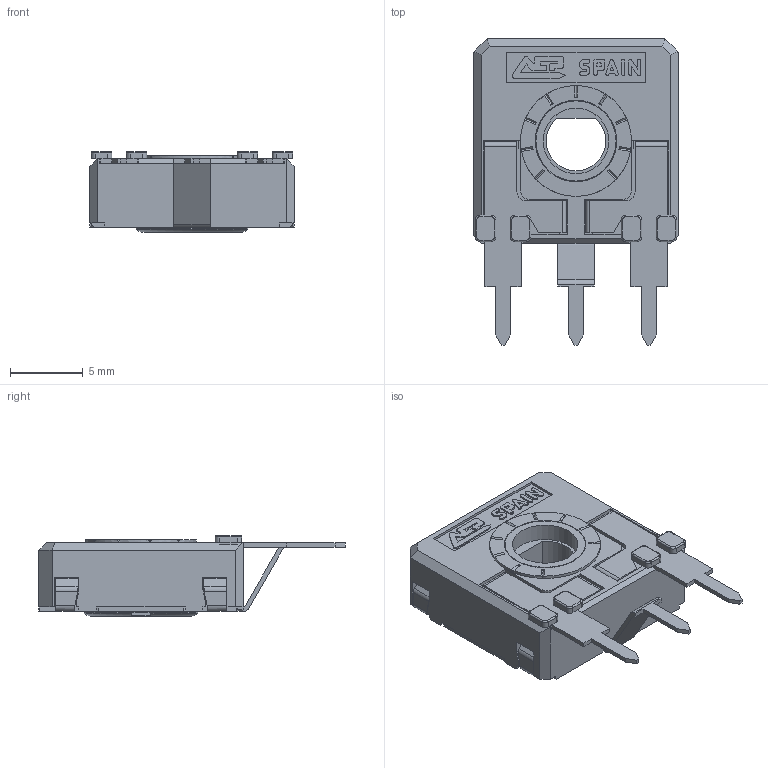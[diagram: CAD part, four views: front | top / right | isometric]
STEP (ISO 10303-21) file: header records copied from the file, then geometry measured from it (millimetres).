
FILE_DESCRIPTION(/* description */ (''),/* implementation_level */ '2;1');
FILE_NAME(/* name */ 'C:\Users\CEM\Desktop\ENVIAR\TRANSICION 3D CATALOGOS\RS14DH0.stp',/* time_stamp */ '2025-12-10T10:20:09+01:00',/* author */ ('CEM'),/* organization */ (''),/* preprocessor_version */ 'ST-DEVELOPER v16.13',/* originating_system */ 'Autodesk Inventor 2018',/* authorisation */ '');
FILE_SCHEMA (('AUTOMOTIVE_DESIGN { 1 0 10303 214 3 1 1 }'));
Length unit declared in the file: millimetre
Products named in the file (1): CARCASA CA14 PGA
Bounding box: 14 x 21 x 5.55 mm (x, y, z)
Volume: 520 mm3; surface area: 1446.8 mm2
Topology: 1 solids, 1 shells, 658 faces, 1848 edges, 1187 vertices
Faces by surface type: plane 487, cylinder 134, torus 23, bspline 8, cone 6
Full cylindrical faces by diameter (mm): 4.5 x1, 5.5 x1, 5.6 x1, 5.752 x1, 6.8 x1, 7.6 x1
Entity records: 21258 total; most frequent: CARTESIAN_POINT 3886, ORIENTED_EDGE 3666, DIRECTION 3459, EDGE_CURVE 1833, LINE 1453, VECTOR 1453, VERTEX_POINT 1182, AXIS2_PLACEMENT_3D 1003
